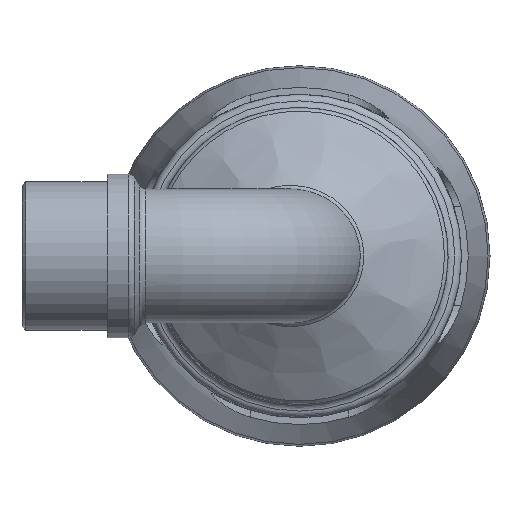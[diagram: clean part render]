
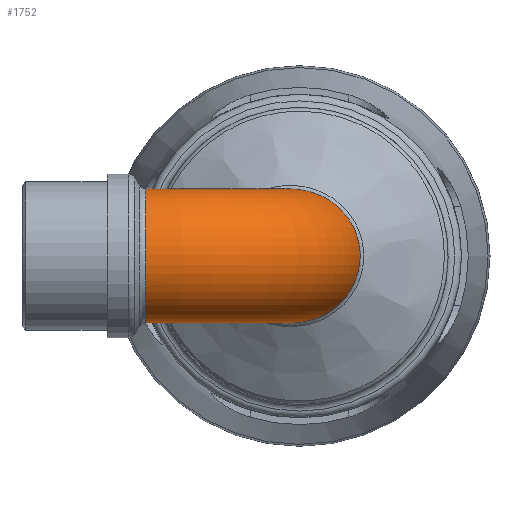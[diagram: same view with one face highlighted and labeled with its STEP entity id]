
A CAD part, left-side view. The second image highlights one B-rep face of the part: STEP entity #1752.
In plain terms, the highlighted toroidal (fillet/blend) face has major radius 34.998 mm and minor radius 14.962 mm.
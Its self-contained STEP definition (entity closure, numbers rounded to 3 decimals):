
#277=B_SPLINE_CURVE_WITH_KNOTS('',3,(#2657,#2658,#2659,#2660,#2661,#2662,
#2663,#2664,#2665,#2666,#2667,#2668,#2669,#2670,#2671,#2672,#2673),
 .UNSPECIFIED.,.T.,.F.,(4,1,1,1,1,1,1,1,1,1,1,1,1,1,4),(-5.204,
-4.46,-3.717,-2.973,-2.23,
-1.239,-0.743,0.248,0.743,
1.487,2.23,2.973,3.717,4.46,
5.204),.UNSPECIFIED.);
#278=B_SPLINE_CURVE_WITH_KNOTS('',3,(#2767,#2768,#2769,#2770,#2771,#2772,
#2773,#2774,#2775,#2776,#2777,#2778,#2779,#2780,#2781,#2782,#2783,#2784),
 .UNSPECIFIED.,.T.,.F.,(4,1,1,1,1,1,1,1,1,1,1,1,1,1,1,4),(-3.142,
-2.693,-2.244,-1.795,-1.346,
-0.748,-0.449,-0.299,-0.15,
0.449,0.898,1.346,1.795,2.244,
2.693,3.142),.UNSPECIFIED.);
#357=FACE_BOUND('',#508,.T.);
#388=FACE_OUTER_BOUND('',#507,.T.);
#507=EDGE_LOOP('',(#1160));
#508=EDGE_LOOP('',(#1161));
#724=VERTEX_POINT('',#2655);
#726=VERTEX_POINT('',#2765);
#887=EDGE_CURVE('',#724,#724,#277,.T.);
#889=EDGE_CURVE('',#726,#726,#278,.T.);
#1160=ORIENTED_EDGE('',*,*,#889,.F.);
#1161=ORIENTED_EDGE('',*,*,#887,.F.);
#1624=TOROIDAL_SURFACE('',#1873,34.998,14.962);
#1752=ADVANCED_FACE('',(#388,#357),#1624,.T.);
#1873=AXIS2_PLACEMENT_3D('',#3030,#2098,#2099);
#2098=DIRECTION('center_axis',(0.,0.,1.));
#2099=DIRECTION('ref_axis',(1.,0.,0.));
#2655=CARTESIAN_POINT('',(14.973,34.349,-0.012));
#2657=CARTESIAN_POINT('Ctrl Pts',(14.973,34.349,-0.013));
#2658=CARTESIAN_POINT('Ctrl Pts',(14.971,34.349,-2.245));
#2659=CARTESIAN_POINT('Ctrl Pts',(13.945,34.356,-6.733));
#2660=CARTESIAN_POINT('Ctrl Pts',(9.636,34.376,-12.111));
#2661=CARTESIAN_POINT('Ctrl Pts',(3.431,34.393,-15.087));
#2662=CARTESIAN_POINT('Ctrl Pts',(-4.232,34.406,-15.087));
#2663=CARTESIAN_POINT('Ctrl Pts',(-10.3,34.413,-11.57));
#2664=CARTESIAN_POINT('Ctrl Pts',(-14.545,34.416,-5.309));
#2665=CARTESIAN_POINT('Ctrl Pts',(-15.466,34.417,0.805));
#2666=CARTESIAN_POINT('Ctrl Pts',(-13.452,34.415,7.325));
#2667=CARTESIAN_POINT('Ctrl Pts',(-9.645,34.412,12.095));
#2668=CARTESIAN_POINT('Ctrl Pts',(-3.428,34.405,15.089));
#2669=CARTESIAN_POINT('Ctrl Pts',(3.457,34.393,15.083));
#2670=CARTESIAN_POINT('Ctrl Pts',(9.662,34.376,12.092));
#2671=CARTESIAN_POINT('Ctrl Pts',(13.958,34.356,6.705));
#2672=CARTESIAN_POINT('Ctrl Pts',(14.975,34.349,2.219));
#2673=CARTESIAN_POINT('Ctrl Pts',(14.973,34.349,-0.013));
#2765=CARTESIAN_POINT('',(22.711,19.172,0.));
#2767=CARTESIAN_POINT('Ctrl Pts',(22.711,19.176,0.));
#2768=CARTESIAN_POINT('Ctrl Pts',(22.711,19.176,2.31));
#2769=CARTESIAN_POINT('Ctrl Pts',(22.654,17.778,6.929));
#2770=CARTESIAN_POINT('Ctrl Pts',(22.595,12.716,12.119));
#2771=CARTESIAN_POINT('Ctrl Pts',(22.672,6.1,15.002));
#2772=CARTESIAN_POINT('Ctrl Pts',(22.831,-1.892,15.176));
#2773=CARTESIAN_POINT('Ctrl Pts',(22.963,-8.379,11.856));
#2774=CARTESIAN_POINT('Ctrl Pts',(23.023,-11.634,7.428));
#2775=CARTESIAN_POINT('Ctrl Pts',(23.045,-12.836,4.575));
#2776=CARTESIAN_POINT('Ctrl Pts',(23.065,-13.955,0.057));
#2777=CARTESIAN_POINT('Ctrl Pts',(23.047,-12.91,-6.347));
#2778=CARTESIAN_POINT('Ctrl Pts',(22.949,-7.68,-12.349));
#2779=CARTESIAN_POINT('Ctrl Pts',(22.815,-1.093,-15.15));
#2780=CARTESIAN_POINT('Ctrl Pts',(22.673,6.099,-15.006));
#2781=CARTESIAN_POINT('Ctrl Pts',(22.595,12.716,-12.117));
#2782=CARTESIAN_POINT('Ctrl Pts',(22.654,17.777,-6.931));
#2783=CARTESIAN_POINT('Ctrl Pts',(22.711,19.176,-2.31));
#2784=CARTESIAN_POINT('Ctrl Pts',(22.711,19.176,0.));
#3030=CARTESIAN_POINT('Origin',(34.998,34.998,0.));
